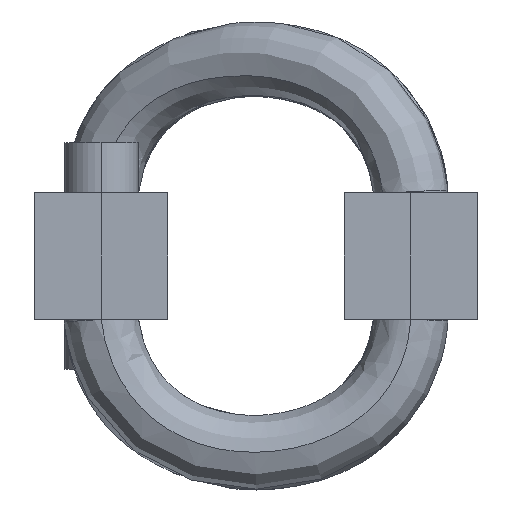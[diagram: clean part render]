
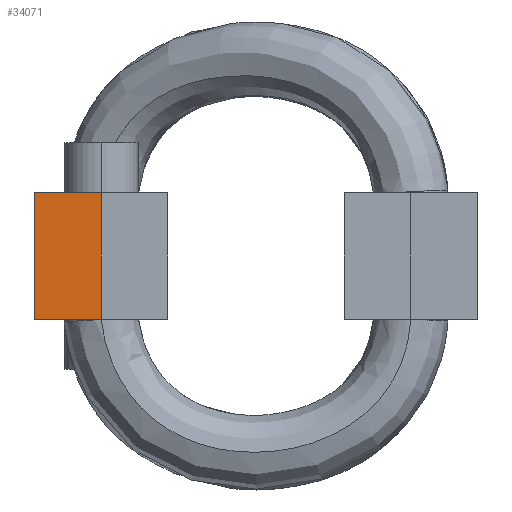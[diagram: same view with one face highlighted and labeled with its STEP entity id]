
A CAD part, left-side view. The second image highlights one B-rep face of the part: STEP entity #34071.
In plain terms, the highlighted planar face has unit normal (-1, 0, 0).
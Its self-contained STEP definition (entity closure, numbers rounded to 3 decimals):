
#419 = CARTESIAN_POINT ( 'NONE',  ( -184.15, 66.5, -19.05 ) ) ;
#1519 = CARTESIAN_POINT ( 'NONE',  ( -184.15, 66.5, 19.05 ) ) ;
#2520 = CARTESIAN_POINT ( 'NONE',  ( -184.15, 66.5, -19.05 ) ) ;
#3877 = EDGE_CURVE ( 'NONE', #34603, #35833, #21751, .T. ) ;
#4211 = ORIENTED_EDGE ( 'NONE', *, *, #40454, .F. ) ;
#12570 = DIRECTION ( 'NONE',  ( -1., 0., 0. ) ) ;
#12595 = DIRECTION ( 'NONE',  ( 0., 0., -1. ) ) ;
#13424 = CARTESIAN_POINT ( 'NONE',  ( -184.15, 46.5, -19.05 ) ) ;
#14157 = VECTOR ( 'NONE', #16837, 1000. ) ;
#15341 = LINE ( 'NONE', #2520, #39261 ) ;
#15394 = CARTESIAN_POINT ( 'NONE',  ( -184.15, 46.5, 19.05 ) ) ;
#16837 = DIRECTION ( 'NONE',  ( 0., 1., 0. ) ) ;
#18072 = DIRECTION ( 'NONE',  ( 0., 0., 1. ) ) ;
#18444 = EDGE_CURVE ( 'NONE', #28703, #21313, #15341, .T. ) ;
#19539 = LINE ( 'NONE', #26860, #27890 ) ;
#21278 = EDGE_CURVE ( 'NONE', #35833, #28703, #40061, .T. ) ;
#21313 = VERTEX_POINT ( 'NONE', #1519 ) ;
#21751 = LINE ( 'NONE', #34452, #28112 ) ;
#25742 = ORIENTED_EDGE ( 'NONE', *, *, #18444, .F. ) ;
#26860 = CARTESIAN_POINT ( 'NONE',  ( -184.15, 66.5, 19.05 ) ) ;
#27890 = VECTOR ( 'NONE', #36265, 1000. ) ;
#28112 = VECTOR ( 'NONE', #12595, 1000. ) ;
#28703 = VERTEX_POINT ( 'NONE', #419 ) ;
#30760 = FACE_OUTER_BOUND ( 'NONE', #40377, .T. ) ;
#30953 = ORIENTED_EDGE ( 'NONE', *, *, #21278, .F. ) ;
#31252 = PLANE ( 'NONE',  #39495 ) ;
#32558 = CARTESIAN_POINT ( 'NONE',  ( -184.15, 66.5, -19.05 ) ) ;
#34071 = ADVANCED_FACE ( 'NONE', ( #30760 ), #31252, .T. ) ;
#34421 = DIRECTION ( 'NONE',  ( 0., 0., 1. ) ) ;
#34452 = CARTESIAN_POINT ( 'NONE',  ( -184.15, 46.5, -19.05 ) ) ;
#34603 = VERTEX_POINT ( 'NONE', #15394 ) ;
#35833 = VERTEX_POINT ( 'NONE', #13424 ) ;
#36265 = DIRECTION ( 'NONE',  ( 0., -1., 0. ) ) ;
#37764 = ORIENTED_EDGE ( 'NONE', *, *, #3877, .F. ) ;
#39261 = VECTOR ( 'NONE', #18072, 1000. ) ;
#39495 = AXIS2_PLACEMENT_3D ( 'NONE', #40556, #12570, #34421 ) ;
#40061 = LINE ( 'NONE', #32558, #14157 ) ;
#40377 = EDGE_LOOP ( 'NONE', ( #4211, #25742, #30953, #37764 ) ) ;
#40454 = EDGE_CURVE ( 'NONE', #21313, #34603, #19539, .T. ) ;
#40556 = CARTESIAN_POINT ( 'NONE',  ( -184.15, 56.5, 0. ) ) ;
